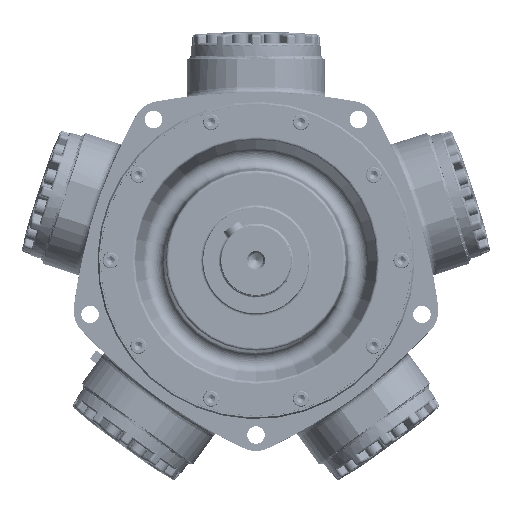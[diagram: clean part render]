
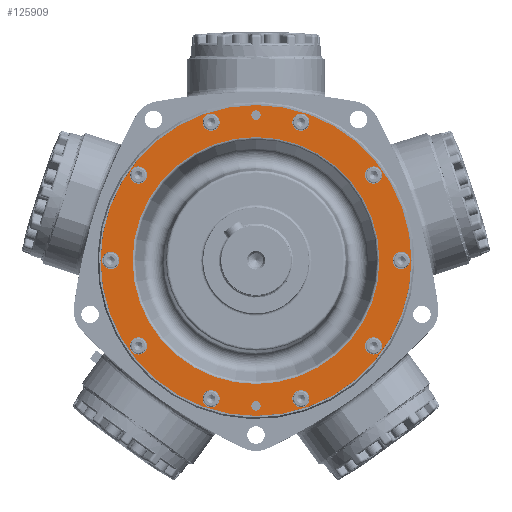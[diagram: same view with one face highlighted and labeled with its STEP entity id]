
A CAD part, top view. The second image highlights one B-rep face of the part: STEP entity #125909.
In plain terms, the highlighted planar face has unit normal (0, 0, 1).
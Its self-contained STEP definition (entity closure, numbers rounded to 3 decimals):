
#125750=CARTESIAN_POINT('',(0.,169.862,68.644));
#125751=DIRECTION('',(0.0,0.0,1.0));
#125752=DIRECTION('',(1.0,0.0,0.0));
#125753=AXIS2_PLACEMENT_3D('',#125750,#125751,#125752);
#125754=PLANE('',#125753);
#125755=CARTESIAN_POINT('',(0.,186.626,68.644));
#125756=VERTEX_POINT('',#125755);
#125757=CARTESIAN_POINT('',(0.,0.,68.644));
#125758=DIRECTION('',(0.0,0.0,1.0));
#125759=DIRECTION('',(0.0,-1.0,0.0));
#125760=AXIS2_PLACEMENT_3D('',#125757,#125758,#125759);
#125761=CIRCLE('',#125760,186.626);
#125762=EDGE_CURVE('',#125756,#125756,#125761,.T.);
#125763=ORIENTED_EDGE('',*,*,#125762,.T.);
#125764=EDGE_LOOP('',(#125763));
#125765=FACE_OUTER_BOUND('',#125764,.T.);
#125766=CARTESIAN_POINT('',(5.664,174.625,68.644));
#125767=VERTEX_POINT('',#125766);
#125768=CARTESIAN_POINT('',(0.,174.625,68.644));
#125769=DIRECTION('',(0.0,0.0,-1.0));
#125770=DIRECTION('',(1.0,0.0,0.0));
#125771=AXIS2_PLACEMENT_3D('',#125768,#125769,#125770);
#125772=CIRCLE('',#125771,5.664);
#125773=EDGE_CURVE('',#125767,#125767,#125772,.T.);
#125774=ORIENTED_EDGE('',*,*,#125773,.T.);
#125775=EDGE_LOOP('',(#125774));
#125776=FACE_BOUND('',#125775,.T.);
#125777=CARTESIAN_POINT('',(5.664,-174.625,68.644));
#125778=VERTEX_POINT('',#125777);
#125779=CARTESIAN_POINT('',(0.,-174.625,68.644));
#125780=DIRECTION('',(0.0,0.0,-1.0));
#125781=DIRECTION('',(1.0,0.0,0.0));
#125782=AXIS2_PLACEMENT_3D('',#125779,#125780,#125781);
#125783=CIRCLE('',#125782,5.664);
#125784=EDGE_CURVE('',#125778,#125778,#125783,.T.);
#125785=ORIENTED_EDGE('',*,*,#125784,.T.);
#125786=EDGE_LOOP('',(#125785));
#125787=FACE_BOUND('',#125786,.T.);
#125788=CARTESIAN_POINT('',(57.151,-175.892,68.644));
#125789=VERTEX_POINT('',#125788);
#125790=CARTESIAN_POINT('',(53.962,-166.078,68.644));
#125791=DIRECTION('',(0.,0.,-1.0));
#125792=DIRECTION('',(0.309,-0.951,0.));
#125793=AXIS2_PLACEMENT_3D('',#125790,#125791,#125792);
#125794=CIRCLE('',#125793,10.319);
#125795=EDGE_CURVE('',#125789,#125789,#125794,.T.);
#125796=ORIENTED_EDGE('',*,*,#125795,.T.);
#125797=EDGE_LOOP('',(#125796));
#125798=FACE_BOUND('',#125797,.T.);
#125799=CARTESIAN_POINT('',(-57.151,-175.892,68.644));
#125800=VERTEX_POINT('',#125799);
#125801=CARTESIAN_POINT('',(-53.962,-166.078,68.644));
#125802=DIRECTION('',(0.,0.,-1.0));
#125803=DIRECTION('',(-0.309,-0.951,0.));
#125804=AXIS2_PLACEMENT_3D('',#125801,#125802,#125803);
#125805=CIRCLE('',#125804,10.319);
#125806=EDGE_CURVE('',#125800,#125800,#125805,.T.);
#125807=ORIENTED_EDGE('',*,*,#125806,.T.);
#125808=EDGE_LOOP('',(#125807));
#125809=FACE_BOUND('',#125808,.T.);
#125810=CARTESIAN_POINT('',(-149.623,-108.707,68.644));
#125811=VERTEX_POINT('',#125810);
#125812=CARTESIAN_POINT('',(-141.275,-102.642,68.644));
#125813=DIRECTION('',(0.,0.,-1.0));
#125814=DIRECTION('',(-0.809,-0.588,0.));
#125815=AXIS2_PLACEMENT_3D('',#125812,#125813,#125814);
#125816=CIRCLE('',#125815,10.319);
#125817=EDGE_CURVE('',#125811,#125811,#125816,.T.);
#125818=ORIENTED_EDGE('',*,*,#125817,.T.);
#125819=EDGE_LOOP('',(#125818));
#125820=FACE_BOUND('',#125819,.T.);
#125821=CARTESIAN_POINT('',(-184.944,0.,68.644));
#125822=VERTEX_POINT('',#125821);
#125823=CARTESIAN_POINT('',(-174.625,0.,68.644));
#125824=DIRECTION('',(0.0,0.0,-1.0));
#125825=DIRECTION('',(-1.0,0.0,0.0));
#125826=AXIS2_PLACEMENT_3D('',#125823,#125824,#125825);
#125827=CIRCLE('',#125826,10.319);
#125828=EDGE_CURVE('',#125822,#125822,#125827,.T.);
#125829=ORIENTED_EDGE('',*,*,#125828,.T.);
#125830=EDGE_LOOP('',(#125829));
#125831=FACE_BOUND('',#125830,.T.);
#125832=CARTESIAN_POINT('',(-149.623,108.707,68.644));
#125833=VERTEX_POINT('',#125832);
#125834=CARTESIAN_POINT('',(-141.275,102.642,68.644));
#125835=DIRECTION('',(0.,0.,-1.0));
#125836=DIRECTION('',(-0.809,0.588,0.));
#125837=AXIS2_PLACEMENT_3D('',#125834,#125835,#125836);
#125838=CIRCLE('',#125837,10.319);
#125839=EDGE_CURVE('',#125833,#125833,#125838,.T.);
#125840=ORIENTED_EDGE('',*,*,#125839,.T.);
#125841=EDGE_LOOP('',(#125840));
#125842=FACE_BOUND('',#125841,.T.);
#125843=CARTESIAN_POINT('',(-57.151,175.892,68.644));
#125844=VERTEX_POINT('',#125843);
#125845=CARTESIAN_POINT('',(-53.962,166.078,68.644));
#125846=DIRECTION('',(0.,0.,-1.0));
#125847=DIRECTION('',(-0.309,0.951,0.));
#125848=AXIS2_PLACEMENT_3D('',#125845,#125846,#125847);
#125849=CIRCLE('',#125848,10.319);
#125850=EDGE_CURVE('',#125844,#125844,#125849,.T.);
#125851=ORIENTED_EDGE('',*,*,#125850,.T.);
#125852=EDGE_LOOP('',(#125851));
#125853=FACE_BOUND('',#125852,.T.);
#125854=CARTESIAN_POINT('',(57.151,175.892,68.644));
#125855=VERTEX_POINT('',#125854);
#125856=CARTESIAN_POINT('',(53.962,166.078,68.644));
#125857=DIRECTION('',(0.,0.,-1.0));
#125858=DIRECTION('',(0.309,0.951,0.));
#125859=AXIS2_PLACEMENT_3D('',#125856,#125857,#125858);
#125860=CIRCLE('',#125859,10.319);
#125861=EDGE_CURVE('',#125855,#125855,#125860,.T.);
#125862=ORIENTED_EDGE('',*,*,#125861,.T.);
#125863=EDGE_LOOP('',(#125862));
#125864=FACE_BOUND('',#125863,.T.);
#125865=CARTESIAN_POINT('',(149.623,108.707,68.644));
#125866=VERTEX_POINT('',#125865);
#125867=CARTESIAN_POINT('',(141.275,102.642,68.644));
#125868=DIRECTION('',(0.,0.,-1.0));
#125869=DIRECTION('',(0.809,0.588,0.));
#125870=AXIS2_PLACEMENT_3D('',#125867,#125868,#125869);
#125871=CIRCLE('',#125870,10.319);
#125872=EDGE_CURVE('',#125866,#125866,#125871,.T.);
#125873=ORIENTED_EDGE('',*,*,#125872,.T.);
#125874=EDGE_LOOP('',(#125873));
#125875=FACE_BOUND('',#125874,.T.);
#125876=CARTESIAN_POINT('',(149.623,-108.707,68.644));
#125877=VERTEX_POINT('',#125876);
#125878=CARTESIAN_POINT('',(141.275,-102.642,68.644));
#125879=DIRECTION('',(0.,0.,-1.0));
#125880=DIRECTION('',(0.809,-0.588,0.));
#125881=AXIS2_PLACEMENT_3D('',#125878,#125879,#125880);
#125882=CIRCLE('',#125881,10.319);
#125883=EDGE_CURVE('',#125877,#125877,#125882,.T.);
#125884=ORIENTED_EDGE('',*,*,#125883,.T.);
#125885=EDGE_LOOP('',(#125884));
#125886=FACE_BOUND('',#125885,.T.);
#125887=CARTESIAN_POINT('',(184.944,0.,68.644));
#125888=VERTEX_POINT('',#125887);
#125889=CARTESIAN_POINT('',(174.625,0.,68.644));
#125890=DIRECTION('',(0.0,0.0,-1.0));
#125891=DIRECTION('',(1.0,0.0,0.0));
#125892=AXIS2_PLACEMENT_3D('',#125889,#125890,#125891);
#125893=CIRCLE('',#125892,10.319);
#125894=EDGE_CURVE('',#125888,#125888,#125893,.T.);
#125895=ORIENTED_EDGE('',*,*,#125894,.T.);
#125896=EDGE_LOOP('',(#125895));
#125897=FACE_BOUND('',#125896,.T.);
#125898=CARTESIAN_POINT('',(0.,148.273,68.644));
#125899=VERTEX_POINT('',#125898);
#125900=CARTESIAN_POINT('',(0.,0.,68.644));
#125901=DIRECTION('',(0.0,0.0,1.0));
#125902=DIRECTION('',(0.0,-1.0,0.0));
#125903=AXIS2_PLACEMENT_3D('',#125900,#125901,#125902);
#125904=CIRCLE('',#125903,148.273);
#125905=EDGE_CURVE('',#125899,#125899,#125904,.T.);
#125906=ORIENTED_EDGE('',*,*,#125905,.F.);
#125907=EDGE_LOOP('',(#125906));
#125908=FACE_BOUND('',#125907,.T.);
#125909=ADVANCED_FACE('',(#125765,#125776,#125787,#125798,#125809,#125820,#125831,#125842,#125853,#125864,#125875,#125886,#125897,#125908),#125754,.T.);
